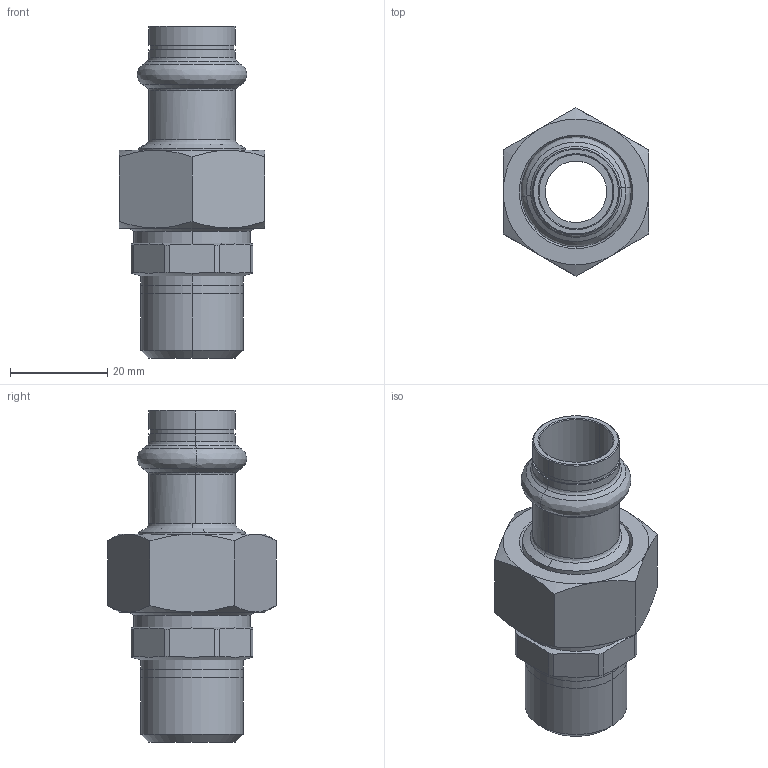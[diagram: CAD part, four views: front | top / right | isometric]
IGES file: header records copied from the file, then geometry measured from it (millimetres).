
Start section: Elysium IGES Interface
Global section: file name: C:\3d modellen sudo\C-Pr VP\SP8331GV\8331GVW1512.igs; native system: CoCreate Modeling 17.00A  17-Jun-2010; preprocessor: CoCreate IGES_3D V2.2; author: Unknown; organization: Unknown; date: 20130305.124025; units: millimetre
Bounding box: 30 x 34.64 x 68.3 mm (x, y, z)
Volume: 17614.6 mm3; surface area: 12329.4 mm2
Topology: 3 solids, 3 shells, 126 faces, 288 edges, 172 vertices
Faces by surface type: bspline 126
